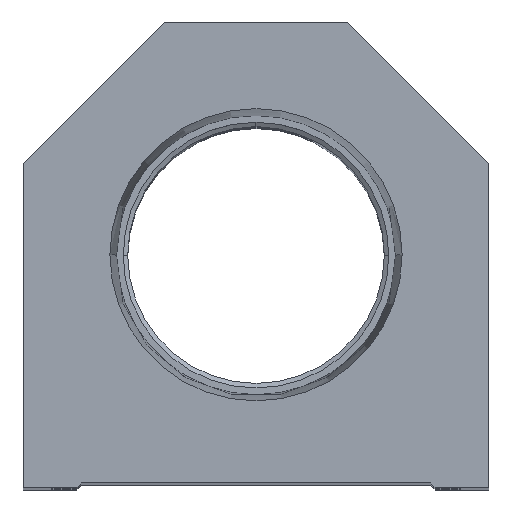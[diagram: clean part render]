
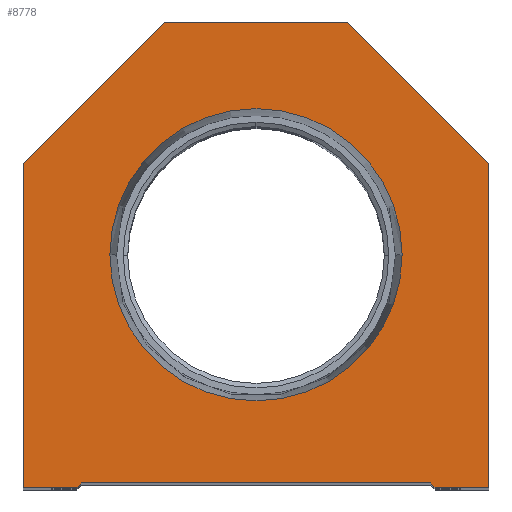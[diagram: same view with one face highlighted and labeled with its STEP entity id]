
A CAD part, top view. The second image highlights one B-rep face of the part: STEP entity #8778.
In plain terms, the highlighted planar face has unit normal (0, 0, 1).
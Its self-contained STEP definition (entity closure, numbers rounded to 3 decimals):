
#42 = CARTESIAN_POINT ( 'NONE',  ( 15.947, 25.4, 0. ) ) ;
#480 = ORIENTED_EDGE ( 'NONE', *, *, #2925, .T. ) ;
#527 = VERTEX_POINT ( 'NONE', #42 ) ;
#548 = VERTEX_POINT ( 'NONE', #8461 ) ;
#916 = VECTOR ( 'NONE', #8220, 1000. ) ;
#932 = CARTESIAN_POINT ( 'NONE',  ( -25.4, 0., 0. ) ) ;
#953 = EDGE_CURVE ( 'NONE', #1316, #11260, #14405, .T. ) ;
#1052 = DIRECTION ( 'NONE',  ( 1., 0., 0. ) ) ;
#1244 = DIRECTION ( 'NONE',  ( 0.707, 0.707, 0. ) ) ;
#1316 = VERTEX_POINT ( 'NONE', #8263 ) ;
#1527 = DIRECTION ( 'NONE',  ( -0.707, 0.707, 0. ) ) ;
#1829 = VERTEX_POINT ( 'NONE', #11050 ) ;
#1983 = CARTESIAN_POINT ( 'NONE',  ( 9.775, 9.775, 0. ) ) ;
#2144 = ORIENTED_EDGE ( 'NONE', *, *, #5851, .T. ) ;
#2168 = CARTESIAN_POINT ( 'NONE',  ( 0., 25.4, 0. ) ) ;
#2328 = ORIENTED_EDGE ( 'NONE', *, *, #7115, .T. ) ;
#2521 = DIRECTION ( 'NONE',  ( 1., 0., 0. ) ) ;
#2655 = EDGE_CURVE ( 'NONE', #11260, #11175, #7590, .T. ) ;
#2861 = CARTESIAN_POINT ( 'NONE',  ( 25.4, 0., 0. ) ) ;
#2889 = VERTEX_POINT ( 'NONE', #2942 ) ;
#2925 = EDGE_CURVE ( 'NONE', #5039, #3034, #8074, .T. ) ;
#2942 = CARTESIAN_POINT ( 'NONE',  ( -15.947, 25.4, 0. ) ) ;
#2965 = DIRECTION ( 'NONE',  ( 1., 0., 0. ) ) ;
#2974 = CARTESIAN_POINT ( 'NONE',  ( 25.4, 35.4, 0. ) ) ;
#3025 = ORIENTED_EDGE ( 'NONE', *, *, #6544, .T. ) ;
#3029 = AXIS2_PLACEMENT_3D ( 'NONE', #9265, #3281, #2965 ) ;
#3031 = ORIENTED_EDGE ( 'NONE', *, *, #10540, .T. ) ;
#3034 = VERTEX_POINT ( 'NONE', #12311 ) ;
#3281 = DIRECTION ( 'NONE',  ( 0., 0., 1. ) ) ;
#3433 = ORIENTED_EDGE ( 'NONE', *, *, #3865, .T. ) ;
#3546 = CARTESIAN_POINT ( 'NONE',  ( -19.05, 0.5, 0. ) ) ;
#3687 = ORIENTED_EDGE ( 'NONE', *, *, #2655, .T. ) ;
#3739 = CARTESIAN_POINT ( 'NONE',  ( -9.775, 9.775, 0. ) ) ;
#3865 = EDGE_CURVE ( 'NONE', #8399, #6638, #6913, .T. ) ;
#3882 = VECTOR ( 'NONE', #15066, 1000. ) ;
#4083 = AXIS2_PLACEMENT_3D ( 'NONE', #2168, #6976, #11774 ) ;
#4171 = ORIENTED_EDGE ( 'NONE', *, *, #11485, .F. ) ;
#4204 = CARTESIAN_POINT ( 'NONE',  ( 0., 25.4, 0. ) ) ;
#4570 = DIRECTION ( 'NONE',  ( 0.707, -0.707, 0. ) ) ;
#4848 = CIRCLE ( 'NONE', #4083, 15.947 ) ;
#4977 = VECTOR ( 'NONE', #2521, 1000. ) ;
#5039 = VERTEX_POINT ( 'NONE', #10835 ) ;
#5143 = EDGE_LOOP ( 'NONE', ( #6341, #4171 ) ) ;
#5851 = EDGE_CURVE ( 'NONE', #8950, #548, #6063, .T. ) ;
#5971 = CIRCLE ( 'NONE', #10988, 15.947 ) ;
#6063 = LINE ( 'NONE', #3546, #916 ) ;
#6341 = ORIENTED_EDGE ( 'NONE', *, *, #6896, .F. ) ;
#6544 = EDGE_CURVE ( 'NONE', #548, #1316, #15296, .T. ) ;
#6638 = VERTEX_POINT ( 'NONE', #14556 ) ;
#6896 = EDGE_CURVE ( 'NONE', #527, #2889, #5971, .T. ) ;
#6913 = LINE ( 'NONE', #932, #6957 ) ;
#6957 = VECTOR ( 'NONE', #9632, 1000. ) ;
#6976 = DIRECTION ( 'NONE',  ( 0., 0., 1. ) ) ;
#7115 = EDGE_CURVE ( 'NONE', #1829, #8950, #14210, .T. ) ;
#7368 = DIRECTION ( 'NONE',  ( 0., 1., 0. ) ) ;
#7371 = VECTOR ( 'NONE', #4570, 1000. ) ;
#7374 = VECTOR ( 'NONE', #1052, 1000. ) ;
#7539 = ORIENTED_EDGE ( 'NONE', *, *, #14459, .T. ) ;
#7590 = LINE ( 'NONE', #2861, #11697 ) ;
#7595 = CARTESIAN_POINT ( 'NONE',  ( -19.05, 0.5, 0. ) ) ;
#7711 = VECTOR ( 'NONE', #1244, 1000. ) ;
#8074 = LINE ( 'NONE', #12869, #3882 ) ;
#8220 = DIRECTION ( 'NONE',  ( 1., 0., 0. ) ) ;
#8263 = CARTESIAN_POINT ( 'NONE',  ( 19.55, 0., 0. ) ) ;
#8302 = LINE ( 'NONE', #13008, #7374 ) ;
#8399 = VERTEX_POINT ( 'NONE', #12870 ) ;
#8461 = CARTESIAN_POINT ( 'NONE',  ( 19.05, 0.5, 0. ) ) ;
#8522 = CARTESIAN_POINT ( 'NONE',  ( 19.05, 0., 0. ) ) ;
#8587 = DIRECTION ( 'NONE',  ( -0.707, -0.707, 0. ) ) ;
#8697 = CARTESIAN_POINT ( 'NONE',  ( 25.4, 35.4, 0. ) ) ;
#8770 = LINE ( 'NONE', #8697, #10643 ) ;
#8778 = ADVANCED_FACE ( 'NONE', ( #8942, #13983 ), #13744, .T. ) ;
#8942 = FACE_BOUND ( 'NONE', #5143, .T. ) ;
#8950 = VERTEX_POINT ( 'NONE', #7595 ) ;
#9007 = DIRECTION ( 'NONE',  ( 1., 0., 0. ) ) ;
#9020 = ORIENTED_EDGE ( 'NONE', *, *, #13587, .T. ) ;
#9265 = CARTESIAN_POINT ( 'NONE',  ( 0., 0., 0. ) ) ;
#9358 = CARTESIAN_POINT ( 'NONE',  ( 25.4, 0., 0. ) ) ;
#9632 = DIRECTION ( 'NONE',  ( 0., -1., 0. ) ) ;
#10540 = EDGE_CURVE ( 'NONE', #11175, #5039, #8770, .T. ) ;
#10643 = VECTOR ( 'NONE', #1527, 1000. ) ;
#10835 = CARTESIAN_POINT ( 'NONE',  ( 10., 50.8, 0. ) ) ;
#10862 = CARTESIAN_POINT ( 'NONE',  ( -25.4, 35.4, 0. ) ) ;
#10988 = AXIS2_PLACEMENT_3D ( 'NONE', #4204, #14909, #9007 ) ;
#11050 = CARTESIAN_POINT ( 'NONE',  ( -19.55, 0., 0. ) ) ;
#11175 = VERTEX_POINT ( 'NONE', #2974 ) ;
#11260 = VERTEX_POINT ( 'NONE', #9358 ) ;
#11485 = EDGE_CURVE ( 'NONE', #2889, #527, #4848, .T. ) ;
#11697 = VECTOR ( 'NONE', #7368, 1000. ) ;
#11774 = DIRECTION ( 'NONE',  ( 1., 0., 0. ) ) ;
#12063 = LINE ( 'NONE', #10862, #14732 ) ;
#12311 = CARTESIAN_POINT ( 'NONE',  ( -10., 50.8, 0. ) ) ;
#12869 = CARTESIAN_POINT ( 'NONE',  ( 10., 50.8, 0. ) ) ;
#12870 = CARTESIAN_POINT ( 'NONE',  ( -25.4, 35.4, 0. ) ) ;
#13008 = CARTESIAN_POINT ( 'NONE',  ( -19.05, 0., 0. ) ) ;
#13490 = EDGE_LOOP ( 'NONE', ( #7539, #2328, #2144, #3025, #13579, #3687, #3031, #480, #9020, #3433 ) ) ;
#13579 = ORIENTED_EDGE ( 'NONE', *, *, #953, .T. ) ;
#13587 = EDGE_CURVE ( 'NONE', #3034, #8399, #12063, .T. ) ;
#13744 = PLANE ( 'NONE',  #3029 ) ;
#13983 = FACE_OUTER_BOUND ( 'NONE', #13490, .T. ) ;
#14210 = LINE ( 'NONE', #3739, #7711 ) ;
#14405 = LINE ( 'NONE', #8522, #4977 ) ;
#14459 = EDGE_CURVE ( 'NONE', #6638, #1829, #8302, .T. ) ;
#14556 = CARTESIAN_POINT ( 'NONE',  ( -25.4, 0., 0. ) ) ;
#14732 = VECTOR ( 'NONE', #8587, 1000. ) ;
#14909 = DIRECTION ( 'NONE',  ( 0., 0., 1. ) ) ;
#15066 = DIRECTION ( 'NONE',  ( -1., 0., 0. ) ) ;
#15296 = LINE ( 'NONE', #1983, #7371 ) ;
